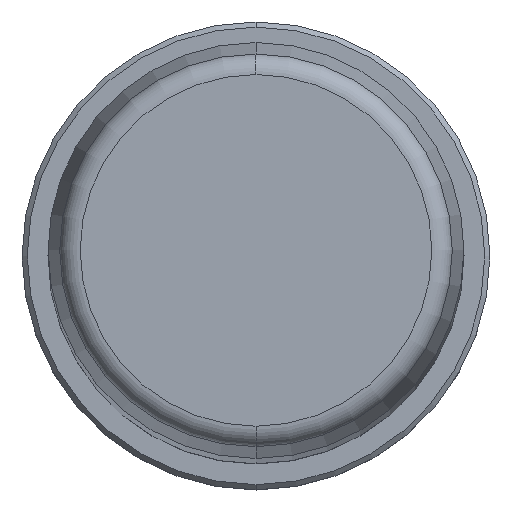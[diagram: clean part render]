
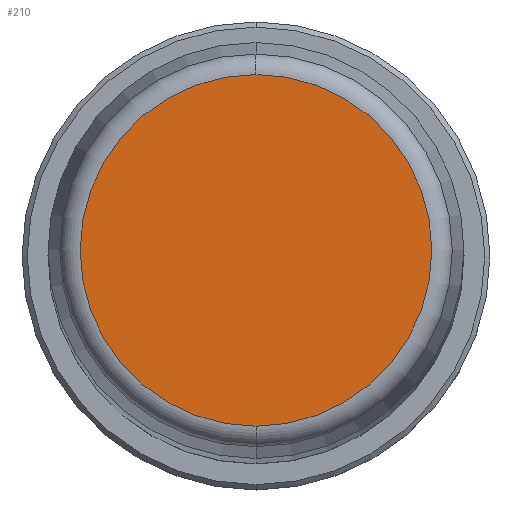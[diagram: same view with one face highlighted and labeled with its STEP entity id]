
A CAD part, top view. The second image highlights one B-rep face of the part: STEP entity #210.
In plain terms, the highlighted planar face has unit normal (0, 0, 1).
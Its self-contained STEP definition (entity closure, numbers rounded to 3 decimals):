
#1=CARTESIAN_POINT('',(0.,0.,315.));
#2=DIRECTION('',(0.,0.,-1.));
#3=DIRECTION('',(0.,-1.,0.));
#4=AXIS2_PLACEMENT_3D('',#1,#2,#3);
#6=CARTESIAN_POINT('',(0.,0.,315.));
#7=DIRECTION('',(0.,0.,-1.));
#8=DIRECTION('',(0.,1.,0.));
#9=AXIS2_PLACEMENT_3D('',#6,#7,#8);
#183=CARTESIAN_POINT('',(0.,-16.911,315.));
#184=CARTESIAN_POINT('',(0.,16.911,315.));
#185=VERTEX_POINT('',#183);
#186=VERTEX_POINT('',#184);
#199=CARTESIAN_POINT('',(0.,0.,315.));
#200=DIRECTION('',(0.,0.,1.));
#201=DIRECTION('',(0.,-1.,0.));
#202=AXIS2_PLACEMENT_3D('',#199,#200,#201);
#203=PLANE('',#202);
#205=ORIENTED_EDGE('',*,*,#204,.T.);
#207=ORIENTED_EDGE('',*,*,#206,.T.);
#208=EDGE_LOOP('',(#205,#207));
#209=FACE_OUTER_BOUND('',#208,.F.);
#210=ADVANCED_FACE('',(#209),#203,.T.);
#5=CIRCLE('',#4,16.911);
#10=CIRCLE('',#9,16.911);
#204=EDGE_CURVE('',#185,#186,#5,.T.);
#206=EDGE_CURVE('',#186,#185,#10,.T.);
